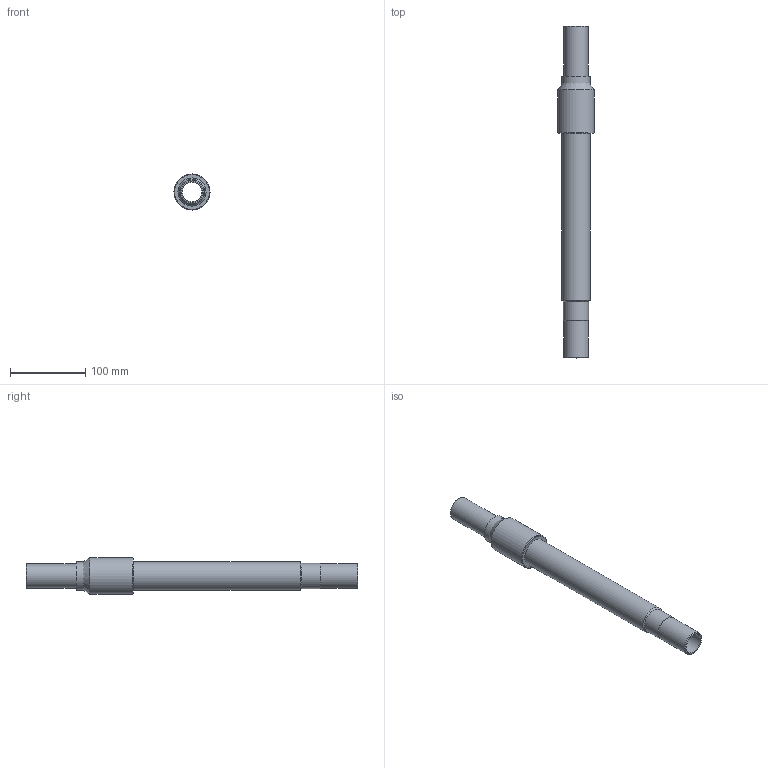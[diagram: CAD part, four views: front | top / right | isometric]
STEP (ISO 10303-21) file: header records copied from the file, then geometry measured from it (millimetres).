
FILE_DESCRIPTION(/* description */ ('Unknown'),/* implementation_level */ '2;1');
FILE_NAME(/* name */ 'RTSZRP032C',/* time_stamp */ '2022-04-27T09:45:41+02:00',/* author */ ('Unknown'),/* organization */ ('Unknown'),/* preprocessor_version */ 'ST-DEVELOPER v18.1',/* originating_system */ 'Solid Edge',/* authorisation */ 'Unknown');
FILE_SCHEMA (('AUTOMOTIVE_DESIGN {1 0 10303 214 3 1 1}'));
Length unit declared in the file: millimetre
Products named in the file (4): RTSZRP032C; Partea ACCIAIO; copertura tubo; Parte PE__oa_0
Assembly tree (3 placements, depth 2):
  RTSZRP032C
    Partea ACCIAIO
    copertura tubo
    Parte PE__oa_0
Bounding box: 48 x 442 x 48 mm (x, y, z)
Volume: 239499.4 mm3; surface area: 167464.3 mm2
Topology: 3 solids, 3 shells, 21 faces, 39 edges, 24 vertices
Faces by surface type: cylinder 9, plane 6, cone 4, torus 2
Full cylindrical faces by diameter (mm): 26 x1, 27.3 x1, 32 x1, 32.7 x1, 33.7 x2, 37.3 x2, 48 x1
Entity records: 531 total; most frequent: DIRECTION 92, CARTESIAN_POINT 67, AXIS2_PLACEMENT_3D 46, ORIENTED_EDGE 42, EDGE_LOOP 42, FACE_BOUND 42, EDGE_CURVE 21, VERTEX_POINT 21
